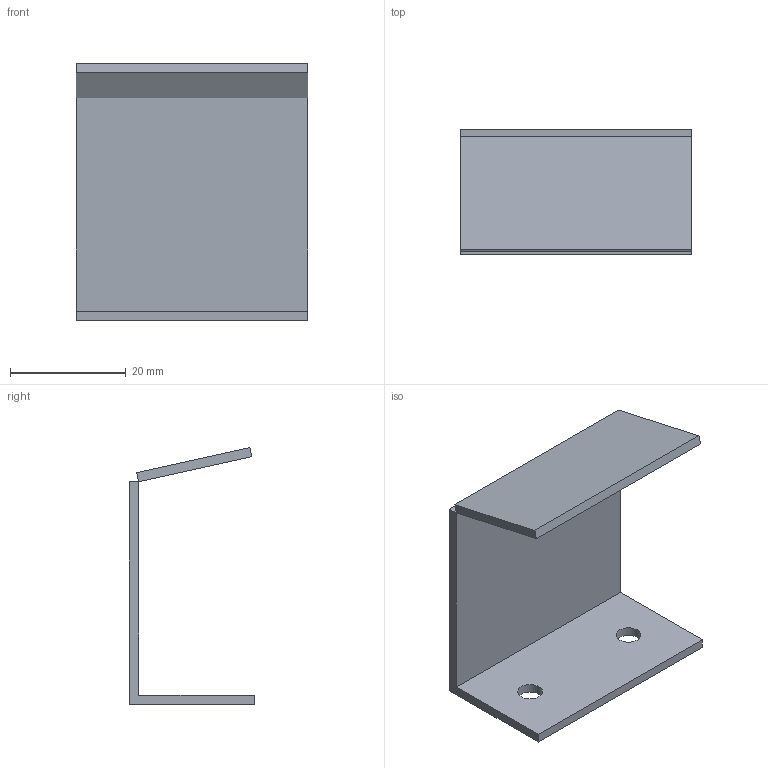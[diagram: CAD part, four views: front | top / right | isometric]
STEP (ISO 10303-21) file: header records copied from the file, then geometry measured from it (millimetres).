
FILE_DESCRIPTION(('Open CASCADE Model'),'2;1');
FILE_NAME('Open CASCADE Shape Model','2026-07-28T21:13:53',('Author'),( 'Open CASCADE'),'Open CASCADE STEP processor 7.9','Open CASCADE 7.9' ,'Unknown');
FILE_SCHEMA(('AUTOMOTIVE_DESIGN { 1 0 10303 214 1 1 1 1 }'));
Length unit declared in the file: millimetre
Products named in the file (3): Open CASCADE STEP translator 7.9 3; Open CASCADE STEP translator 7.9 3.1; Open CASCADE STEP translator 7.9 3.2
Assembly tree (2 placements, depth 2):
  Open CASCADE STEP translator 7.9 3
    Open CASCADE STEP translator 7.9 3.1
    Open CASCADE STEP translator 7.9 3.2
Bounding box: 40 x 21.6 x 44.26 mm (x, y, z)
Volume: 4969.4 mm3; surface area: 6761.8 mm2
Topology: 2 solids, 2 shells, 16 faces, 36 edges, 24 vertices
Faces by surface type: plane 14, cylinder 2
Full cylindrical faces by diameter (mm): 4.3 x2
Entity records: 964 total; most frequent: CARTESIAN_POINT 151, DIRECTION 150, LINE 100, VECTOR 100, ORIENTED_EDGE 72, PCURVE 72, DEFINITIONAL_REPRESENTATION 72, EDGE_CURVE 36
